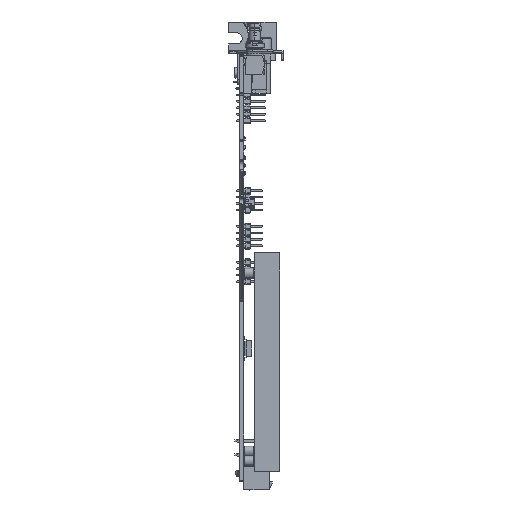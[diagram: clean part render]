
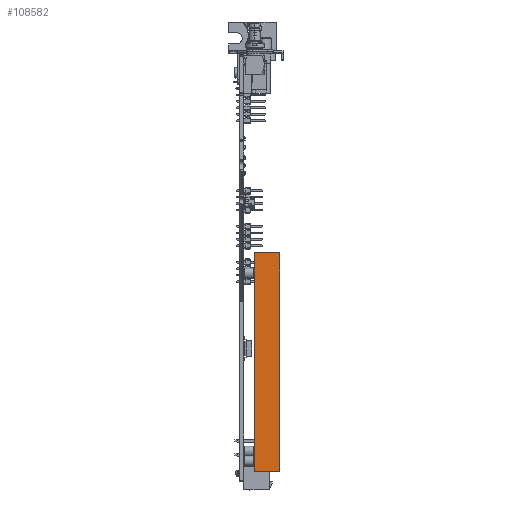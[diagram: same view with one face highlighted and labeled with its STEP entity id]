
A CAD part, top view. The second image highlights one B-rep face of the part: STEP entity #108582.
In plain terms, the highlighted planar face has unit normal (0, 0, 1) as drawn and (1, 0, 0) by its records, which use the part's own axes.
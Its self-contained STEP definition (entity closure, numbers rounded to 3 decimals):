
#105035=DIRECTION('',(0.,-1.,0.));
#105036=VECTOR('',#105035,10.1);
#105037=CARTESIAN_POINT('',(27.5,10.1,51.));
#105038=LINE('',#105037,#105036);
#105723=DIRECTION('',(0.,-1.,0.));
#105724=VECTOR('',#105723,10.1);
#105725=CARTESIAN_POINT('',(27.5,10.1,-35.));
#105726=LINE('',#105725,#105724);
#105727=DIRECTION('',(0.,0.,1.));
#105728=VECTOR('',#105727,86.);
#105729=CARTESIAN_POINT('',(27.5,0.,-35.));
#105730=LINE('',#105729,#105728);
#105731=DIRECTION('',(0.,0.,1.));
#105732=VECTOR('',#105731,86.);
#105733=CARTESIAN_POINT('',(27.5,10.1,-35.));
#105734=LINE('',#105733,#105732);
#105959=CARTESIAN_POINT('',(27.5,0.,-35.));
#105961=VERTEX_POINT('',#105959);
#105965=CARTESIAN_POINT('',(27.5,0.,51.));
#105966=VERTEX_POINT('',#105965);
#105983=CARTESIAN_POINT('',(27.5,10.1,-35.));
#105984=VERTEX_POINT('',#105983);
#105989=CARTESIAN_POINT('',(27.5,10.1,51.));
#105991=VERTEX_POINT('',#105989);
#108570=CARTESIAN_POINT('',(27.5,0.,51.));
#108571=DIRECTION('',(1.,0.,0.));
#108572=DIRECTION('',(0.,0.,-1.));
#108573=AXIS2_PLACEMENT_3D('',#108570,#108571,#108572);
#108574=PLANE('',#108573);
#108575=ORIENTED_EDGE('',*,*,#107793,.T.);
#108576=ORIENTED_EDGE('',*,*,#106516,.T.);
#108577=ORIENTED_EDGE('',*,*,#107604,.F.);
#108579=ORIENTED_EDGE('',*,*,#108578,.F.);
#108580=EDGE_LOOP('',(#108575,#108576,#108577,#108579));
#108581=FACE_OUTER_BOUND('',#108580,.F.);
#108582=ADVANCED_FACE('',(#108581),#108574,.T.);
#106516=EDGE_CURVE('',#105961,#105966,#105730,.T.);
#107604=EDGE_CURVE('',#105991,#105966,#105038,.T.);
#107793=EDGE_CURVE('',#105984,#105961,#105726,.T.);
#108578=EDGE_CURVE('',#105984,#105991,#105734,.T.);
